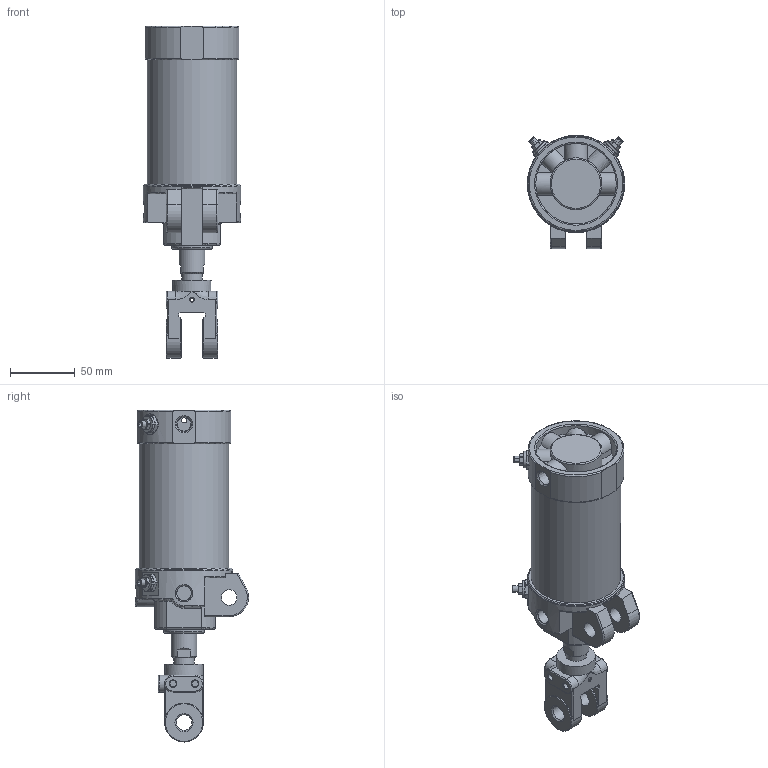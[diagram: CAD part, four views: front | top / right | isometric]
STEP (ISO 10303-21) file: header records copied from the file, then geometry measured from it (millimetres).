
FILE_DESCRIPTION((''),'2;1');
FILE_NAME('I:\3D電子目錄\氣缸\DCK\DCK\DCK-1A-63x50-Y.stp','2008-02-26T15:33:52',('Administrator'),(''),'Autodesk Inventor 11','Autodesk Inventor 11','');
FILE_SCHEMA(('AUTOMOTIVE_DESIGN { 1 0 10303 214 1 1 1 1 }'));
Length unit declared in the file: millimetre
Products named in the file (6): DCK-1A-63-Y; 緩衝針; 緩衝針-1; 緩衝針-201; 緩衝針-3
Assembly tree (8 placements, depth 3):
  DCK-1A-63-Y
    DCK-1A-63-Y
    緩衝針  x4
      緩衝針-1
      緩衝針-201
      緩衝針-3
Bounding box: 75 x 87.29 x 256 mm (x, y, z)
Volume: 363639 mm3; surface area: 125794.9 mm2
Topology: 16 solids, 16 shells, 674 faces, 1501 edges, 931 vertices
Faces by surface type: plane 246, cylinder 189, cone 145, torus 48, bspline 46
Full cylindrical faces by diameter (mm): 2 x1, 3 x2, 3.8 x2, 4 x6, 4.6 x4, 4.917 x2, 5 x8, 5.1 x4, 5.2 x12, 5.5 x4, 7 x1, 7.25 x1, 7.9 x4, 8 x2, 11.3 x3, 12 x4, 12.8 x4, 16 x3, 20 x1, 21 x1, 22 x2, 23 x1, 24.7 x1, 26 x1, 27 x1, 28 x1, 29 x1, 30 x3, 31 x1, 33 x1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
Entity records: 15208 total; most frequent: CARTESIAN_POINT 6261, DIRECTION 1818, ORIENTED_EDGE 1644, EDGE_CURVE 822, AXIS2_PLACEMENT_3D 781, EDGE_LOOP 636, VERTEX_POINT 590, FACE_OUTER_BOUND 425
